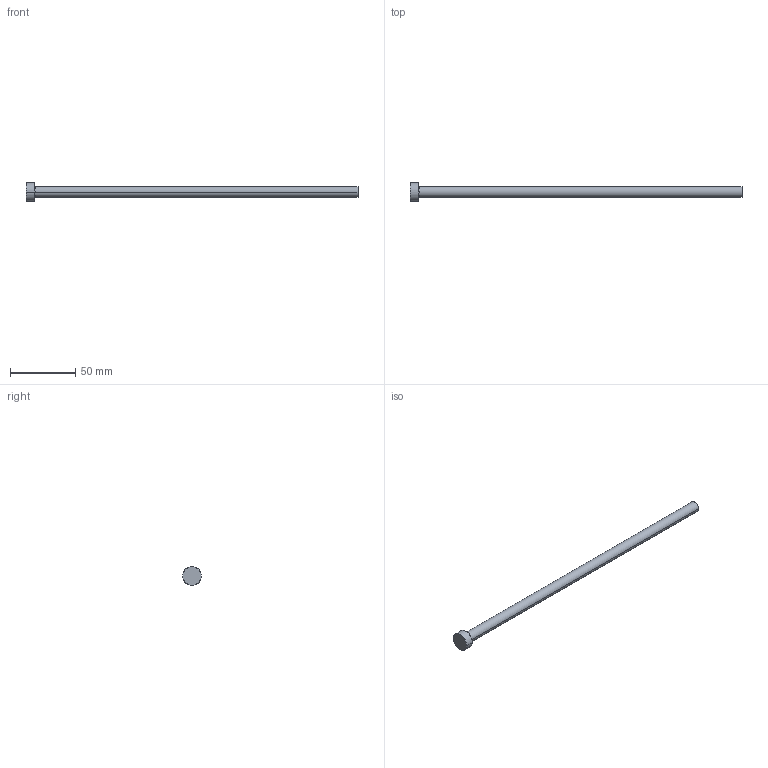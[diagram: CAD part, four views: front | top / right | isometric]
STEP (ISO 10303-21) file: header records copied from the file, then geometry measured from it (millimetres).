
FILE_DESCRIPTION (( 'STEP AP214' ), '1' );
FILE_NAME ('P22-10.STEP', '2020-03-12T09:39:52', ( '' ), ( '' ), 'SwSTEP 2.0', 'SolidWorks 2018', '' );
FILE_SCHEMA (( 'AUTOMOTIVE_DESIGN' ));
Length unit declared in the file: inch
Products named in the file (1): P22-10
Bounding box: 254 x 14.29 x 14.29 mm (x, y, z)
Volume: 14506.9 mm3; surface area: 7070.4 mm2
Topology: 1 solids, 1 shells, 13 faces, 24 edges, 14 vertices
Faces by surface type: cone 4, cylinder 4, plane 3, torus 2
Entity records: 366 total; most frequent: DIRECTION 68, CARTESIAN_POINT 52, ORIENTED_EDGE 48, AXIS2_PLACEMENT_3D 30, EDGE_CURVE 24, CIRCLE 16, EDGE_LOOP 14, VERTEX_POINT 14
